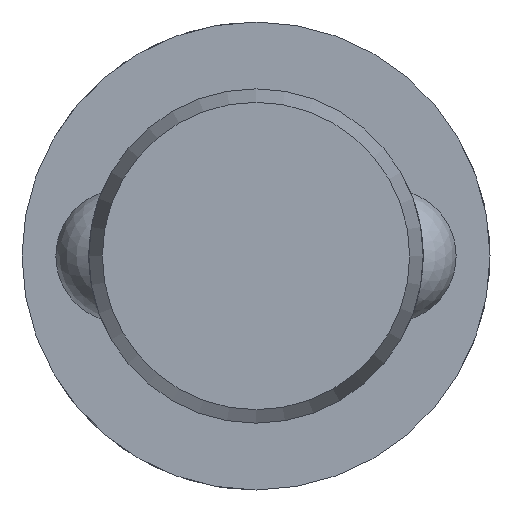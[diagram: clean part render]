
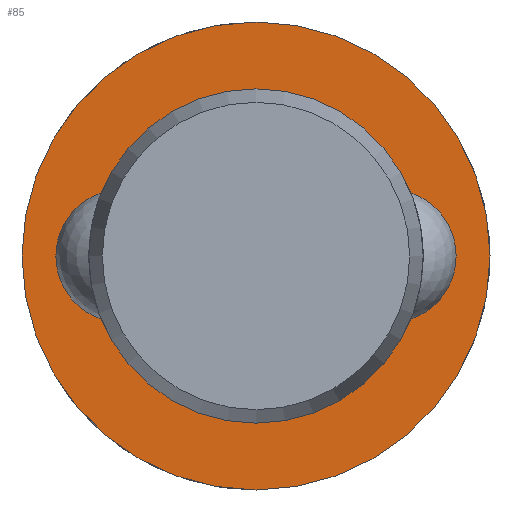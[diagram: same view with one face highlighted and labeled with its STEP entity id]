
A CAD part, left-side view. The second image highlights one B-rep face of the part: STEP entity #85.
In plain terms, the highlighted planar face has unit normal (-1, 0, 0).
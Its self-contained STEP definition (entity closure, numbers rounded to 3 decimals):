
#85 = ADVANCED_FACE( '', ( #130, #131 ), #132, .F. );
#130 = FACE_OUTER_BOUND( '', #200, .T. );
#131 = FACE_BOUND( '', #201, .T. );
#132 = PLANE( '', #202 );
#200 = EDGE_LOOP( '', ( #315 ) );
#201 = EDGE_LOOP( '', ( #316 ) );
#202 = AXIS2_PLACEMENT_3D( '', #317, #318, #319 );
#315 = ORIENTED_EDGE( '', *, *, #458, .F. );
#316 = ORIENTED_EDGE( '', *, *, #455, .T. );
#317 = CARTESIAN_POINT( '', ( 79.6, 5., 0. ) );
#318 = DIRECTION( '', ( 1., 0., 0. ) );
#319 = DIRECTION( '', ( 0., 0., -1. ) );
#455 = EDGE_CURVE( '', #528, #528, #529, .T. );
#458 = EDGE_CURVE( '', #534, #534, #535, .T. );
#528 = VERTEX_POINT( '', #732 );
#529 = CIRCLE( '', #733, 5. );
#534 = VERTEX_POINT( '', #844 );
#535 = CIRCLE( '', #845, 7. );
#732 = CARTESIAN_POINT( '', ( 79.6, 0., -5. ) );
#733 = AXIS2_PLACEMENT_3D( '', #922, #923, #924 );
#844 = CARTESIAN_POINT( '', ( 79.6, 0., -7. ) );
#845 = AXIS2_PLACEMENT_3D( '', #925, #926, #927 );
#922 = CARTESIAN_POINT( '', ( 79.6, 0., 0. ) );
#923 = DIRECTION( '', ( 1., 0., 0. ) );
#924 = DIRECTION( '', ( 0., 0., -1. ) );
#925 = CARTESIAN_POINT( '', ( 79.6, 0., 0. ) );
#926 = DIRECTION( '', ( 1., 0., 0. ) );
#927 = DIRECTION( '', ( 0., 0., -1. ) );
